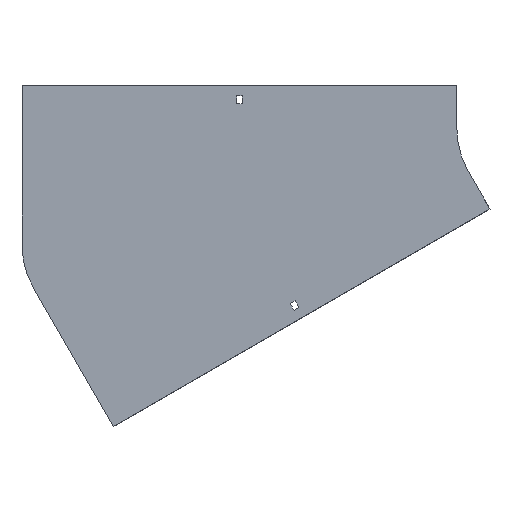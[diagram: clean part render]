
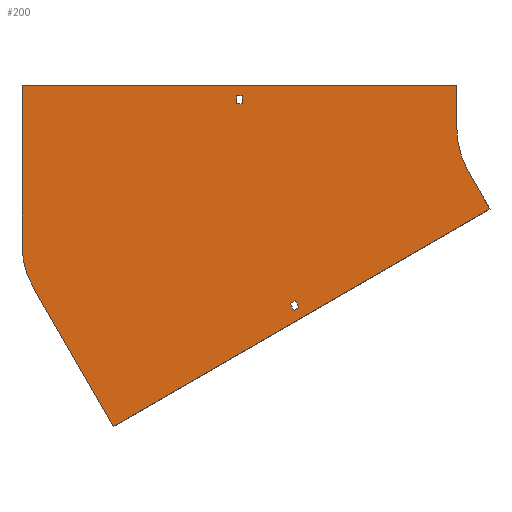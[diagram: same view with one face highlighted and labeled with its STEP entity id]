
A CAD part, front view. The second image highlights one B-rep face of the part: STEP entity #200.
In plain terms, the highlighted planar face has unit normal (0, -1, 0).
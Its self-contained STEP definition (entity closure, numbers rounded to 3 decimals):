
#74 = CARTESIAN_POINT ( 'NONE',  ( -355.25, 0., 38. ) ) ;
#94 = VERTEX_POINT ( 'NONE', #74 ) ;
#95 = DIRECTION ( 'NONE',  ( 0., 1., 0. ) ) ;
#103 = LINE ( 'NONE', #1312, #1027 ) ;
#105 = EDGE_CURVE ( 'NONE', #580, #402, #686, .T. ) ;
#109 = FACE_BOUND ( 'NONE', #871, .T. ) ;
#141 = CARTESIAN_POINT ( 'NONE',  ( -86.603, 0., -50. ) ) ;
#158 = ORIENTED_EDGE ( 'NONE', *, *, #972, .F. ) ;
#168 = VECTOR ( 'NONE', #264, 1000. ) ;
#181 = CARTESIAN_POINT ( 'NONE',  ( 0., 0., 0. ) ) ;
#200 = ADVANCED_FACE ( 'NONE', ( #724, #1464, #109 ), #424, .T. ) ;
#203 = LINE ( 'NONE', #1393, #1656 ) ;
#228 = VECTOR ( 'NONE', #1604, 1000. ) ;
#236 = DIRECTION ( 'NONE',  ( 0., 0., 1. ) ) ;
#250 = CARTESIAN_POINT ( 'NONE',  ( -604., 0., -135.046 ) ) ;
#264 = DIRECTION ( 'NONE',  ( 0., 0., -1. ) ) ;
#274 = CARTESIAN_POINT ( 'NONE',  ( -100., 0., 0. ) ) ;
#276 = ORIENTED_EDGE ( 'NONE', *, *, #1278, .F. ) ;
#280 = CARTESIAN_POINT ( 'NONE',  ( -283.026, 0., -207.284 ) ) ;
#300 = ORIENTED_EDGE ( 'NONE', *, *, #919, .T. ) ;
#346 = VERTEX_POINT ( 'NONE', #924 ) ;
#377 = EDGE_CURVE ( 'NONE', #1384, #1545, #1660, .T. ) ;
#380 = EDGE_LOOP ( 'NONE', ( #473, #300, #500, #626 ) ) ;
#398 = VERTEX_POINT ( 'NONE', #1272 ) ;
#402 = VERTEX_POINT ( 'NONE', #492 ) ;
#424 = PLANE ( 'NONE',  #1379 ) ;
#451 = CARTESIAN_POINT ( 'NONE',  ( -355.25, 0., 29. ) ) ;
#453 = VECTOR ( 'NONE', #733, 1000. ) ;
#465 = VECTOR ( 'NONE', #689, 1000. ) ;
#473 = ORIENTED_EDGE ( 'NONE', *, *, #986, .T. ) ;
#474 = VECTOR ( 'NONE', #1664, 1000. ) ;
#492 = CARTESIAN_POINT ( 'NONE',  ( -604., 0., 50. ) ) ;
#495 = CARTESIAN_POINT ( 'NONE',  ( -100., 0., 50. ) ) ;
#496 = DIRECTION ( 'NONE',  ( 0., 0., 1. ) ) ;
#498 = CARTESIAN_POINT ( 'NONE',  ( -293.156, 0., -202.74 ) ) ;
#500 = ORIENTED_EDGE ( 'NONE', *, *, #1713, .T. ) ;
#507 = VECTOR ( 'NONE', #1429, 1000. ) ;
#524 = EDGE_CURVE ( 'NONE', #1750, #346, #1307, .T. ) ;
#556 = VERTEX_POINT ( 'NONE', #1161 ) ;
#570 = DIRECTION ( 'NONE',  ( 0., 0., -1. ) ) ;
#573 = ORIENTED_EDGE ( 'NONE', *, *, #524, .F. ) ;
#574 = CARTESIAN_POINT ( 'NONE',  ( -348.75, 0., 29. ) ) ;
#580 = VERTEX_POINT ( 'NONE', #250 ) ;
#596 = LINE ( 'NONE', #1326, #1914 ) ;
#619 = CARTESIAN_POINT ( 'NONE',  ( -100., 0., 50. ) ) ;
#626 = ORIENTED_EDGE ( 'NONE', *, *, #1119, .T. ) ;
#642 = CARTESIAN_POINT ( 'NONE',  ( -348.75, 0., 38. ) ) ;
#653 = DIRECTION ( 'NONE',  ( 0., -1., 0. ) ) ;
#679 = ORIENTED_EDGE ( 'NONE', *, *, #907, .F. ) ;
#680 = EDGE_CURVE ( 'NONE', #1211, #1384, #897, .T. ) ;
#686 = LINE ( 'NONE', #1840, #1816 ) ;
#689 = DIRECTION ( 'NONE',  ( 0.5, 0., -0.866 ) ) ;
#706 = EDGE_CURVE ( 'NONE', #1824, #982, #596, .T. ) ;
#707 = ORIENTED_EDGE ( 'NONE', *, *, #890, .F. ) ;
#717 = VERTEX_POINT ( 'NONE', #1933 ) ;
#724 = FACE_BOUND ( 'NONE', #380, .T. ) ;
#733 = DIRECTION ( 'NONE',  ( 0.5, 0., -0.866 ) ) ;
#738 = LINE ( 'NONE', #451, #1376 ) ;
#763 = CARTESIAN_POINT ( 'NONE',  ( -498.079, 0., -345.301 ) ) ;
#801 = DIRECTION ( 'NONE',  ( -0.866, 0., -0.5 ) ) ;
#871 = EDGE_LOOP ( 'NONE', ( #1711, #158, #951, #1230 ) ) ;
#890 = EDGE_CURVE ( 'NONE', #346, #580, #1159, .T. ) ;
#897 = LINE ( 'NONE', #619, #474 ) ;
#907 = EDGE_CURVE ( 'NONE', #717, #1750, #1743, .T. ) ;
#908 = AXIS2_PLACEMENT_3D ( 'NONE', #181, #653, #1257 ) ;
#919 = EDGE_CURVE ( 'NONE', #94, #1492, #1037, .T. ) ;
#924 = CARTESIAN_POINT ( 'NONE',  ( -590.603, 0., -185.046 ) ) ;
#951 = ORIENTED_EDGE ( 'NONE', *, *, #1235, .F. ) ;
#952 = VECTOR ( 'NONE', #1148, 1000. ) ;
#972 = EDGE_CURVE ( 'NONE', #1887, #398, #1879, .T. ) ;
#982 = VERTEX_POINT ( 'NONE', #1601 ) ;
#984 = CARTESIAN_POINT ( 'NONE',  ( -61.603, 0., -93.301 ) ) ;
#986 = EDGE_CURVE ( 'NONE', #556, #94, #103, .T. ) ;
#999 = CARTESIAN_POINT ( 'NONE',  ( 0., 0., 0. ) ) ;
#1012 = LINE ( 'NONE', #1150, #168 ) ;
#1027 = VECTOR ( 'NONE', #1302, 1000. ) ;
#1037 = LINE ( 'NONE', #1287, #952 ) ;
#1043 = LINE ( 'NONE', #141, #453 ) ;
#1046 = DIRECTION ( 'NONE',  ( -1., 0., 0. ) ) ;
#1099 = LINE ( 'NONE', #1569, #1940 ) ;
#1119 = EDGE_CURVE ( 'NONE', #1838, #556, #738, .T. ) ;
#1132 = CARTESIAN_POINT ( 'NONE',  ( -293.156, 0., -202.74 ) ) ;
#1141 = CARTESIAN_POINT ( 'NONE',  ( -504., 0., -135.046 ) ) ;
#1142 = LINE ( 'NONE', #1891, #228 ) ;
#1148 = DIRECTION ( 'NONE',  ( 1., 0., 0. ) ) ;
#1150 = CARTESIAN_POINT ( 'NONE',  ( -348.75, 0., 29. ) ) ;
#1159 = CIRCLE ( 'NONE', #1347, 100. ) ;
#1161 = CARTESIAN_POINT ( 'NONE',  ( -355.25, 0., 29. ) ) ;
#1211 = VERTEX_POINT ( 'NONE', #495 ) ;
#1230 = ORIENTED_EDGE ( 'NONE', *, *, #706, .F. ) ;
#1235 = EDGE_CURVE ( 'NONE', #982, #1887, #203, .T. ) ;
#1257 = DIRECTION ( 'NONE',  ( 0., 0., -1. ) ) ;
#1272 = CARTESIAN_POINT ( 'NONE',  ( -288.656, 0., -210.534 ) ) ;
#1278 = EDGE_CURVE ( 'NONE', #402, #1211, #1099, .T. ) ;
#1287 = CARTESIAN_POINT ( 'NONE',  ( -355.25, 0., 38. ) ) ;
#1302 = DIRECTION ( 'NONE',  ( 0., 0., 1. ) ) ;
#1307 = LINE ( 'NONE', #1882, #1597 ) ;
#1309 = DIRECTION ( 'NONE',  ( 0., -1., 0. ) ) ;
#1312 = CARTESIAN_POINT ( 'NONE',  ( -355.25, 0., 29. ) ) ;
#1326 = CARTESIAN_POINT ( 'NONE',  ( -287.526, 0., -199.49 ) ) ;
#1347 = AXIS2_PLACEMENT_3D ( 'NONE', #1141, #95, #236 ) ;
#1366 = EDGE_CURVE ( 'NONE', #1545, #717, #1043, .T. ) ;
#1376 = VECTOR ( 'NONE', #1046, 1000. ) ;
#1379 = AXIS2_PLACEMENT_3D ( 'NONE', #999, #1309, #570 ) ;
#1384 = VERTEX_POINT ( 'NONE', #274 ) ;
#1393 = CARTESIAN_POINT ( 'NONE',  ( -293.156, 0., -202.74 ) ) ;
#1429 = DIRECTION ( 'NONE',  ( -0.866, 0., -0.5 ) ) ;
#1464 = FACE_OUTER_BOUND ( 'NONE', #1602, .T. ) ;
#1492 = VERTEX_POINT ( 'NONE', #642 ) ;
#1545 = VERTEX_POINT ( 'NONE', #1845 ) ;
#1554 = DIRECTION ( 'NONE',  ( 1., 0., 0. ) ) ;
#1569 = CARTESIAN_POINT ( 'NONE',  ( -604., 0., 50. ) ) ;
#1597 = VECTOR ( 'NONE', #1744, 1000. ) ;
#1601 = CARTESIAN_POINT ( 'NONE',  ( -287.526, 0., -199.49 ) ) ;
#1602 = EDGE_LOOP ( 'NONE', ( #276, #1759, #707, #573, #679, #1610, #1655, #1876 ) ) ;
#1604 = DIRECTION ( 'NONE',  ( 0.866, 0., 0.5 ) ) ;
#1610 = ORIENTED_EDGE ( 'NONE', *, *, #1366, .F. ) ;
#1645 = EDGE_CURVE ( 'NONE', #398, #1824, #1142, .T. ) ;
#1655 = ORIENTED_EDGE ( 'NONE', *, *, #377, .F. ) ;
#1656 = VECTOR ( 'NONE', #801, 1000. ) ;
#1660 = CIRCLE ( 'NONE', #908, 100. ) ;
#1664 = DIRECTION ( 'NONE',  ( 0., 0., -1. ) ) ;
#1711 = ORIENTED_EDGE ( 'NONE', *, *, #1645, .F. ) ;
#1713 = EDGE_CURVE ( 'NONE', #1492, #1838, #1012, .T. ) ;
#1743 = LINE ( 'NONE', #984, #507 ) ;
#1744 = DIRECTION ( 'NONE',  ( -0.5, 0., 0.866 ) ) ;
#1750 = VERTEX_POINT ( 'NONE', #763 ) ;
#1759 = ORIENTED_EDGE ( 'NONE', *, *, #105, .F. ) ;
#1776 = DIRECTION ( 'NONE',  ( -0.5, 0., 0.866 ) ) ;
#1816 = VECTOR ( 'NONE', #496, 1000. ) ;
#1824 = VERTEX_POINT ( 'NONE', #280 ) ;
#1838 = VERTEX_POINT ( 'NONE', #574 ) ;
#1840 = CARTESIAN_POINT ( 'NONE',  ( -604., 0., -135.046 ) ) ;
#1845 = CARTESIAN_POINT ( 'NONE',  ( -86.603, 0., -50. ) ) ;
#1876 = ORIENTED_EDGE ( 'NONE', *, *, #680, .F. ) ;
#1879 = LINE ( 'NONE', #1132, #465 ) ;
#1882 = CARTESIAN_POINT ( 'NONE',  ( -498.079, 0., -345.301 ) ) ;
#1887 = VERTEX_POINT ( 'NONE', #498 ) ;
#1891 = CARTESIAN_POINT ( 'NONE',  ( -288.656, 0., -210.534 ) ) ;
#1914 = VECTOR ( 'NONE', #1776, 1000. ) ;
#1933 = CARTESIAN_POINT ( 'NONE',  ( -61.603, 0., -93.301 ) ) ;
#1940 = VECTOR ( 'NONE', #1554, 1000. ) ;
